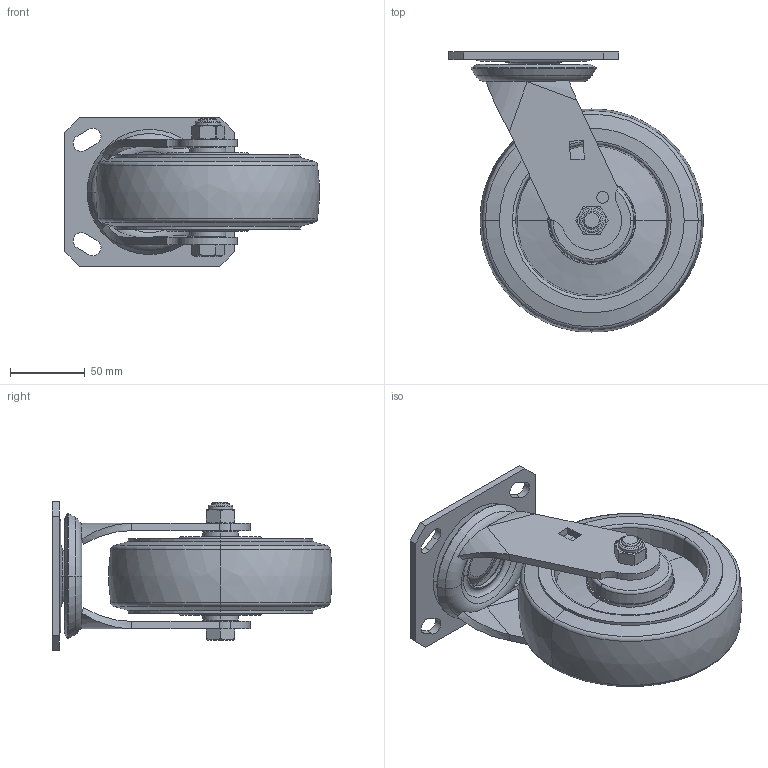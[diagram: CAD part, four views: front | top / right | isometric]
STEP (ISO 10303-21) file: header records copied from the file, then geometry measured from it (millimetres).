
FILE_DESCRIPTION((''),'2;1');
FILE_NAME('S7116_ASM','2021-10-19T',('lenovo'),(''),'PRO/ENGINEER BY PARAMETRIC TECHNOLOGY CORPORATION, 2010280','PRO/ENGINEER BY PARAMETRIC TECHNOLOGY CORPORATION, 2010280','');
FILE_SCHEMA(('CONFIG_CONTROL_DESIGN'));
Length unit declared in the file: millimetre
Products named in the file (8): S710-01; S710C03; S716C11; S716-11_ASM; S710-33; S710-34; 706-986; S7116_ASM
Assembly tree (7 placements, depth 3):
  S7116_ASM
    S710-01
    S716-11_ASM
      S710C03
      S716C11
    S710-33
    S710-34
    706-986
Bounding box: 170.82 x 187.82 x 100 mm (x, y, z)
Volume: 842208 mm3; surface area: 137179.6 mm2
Topology: 7 solids, 7 shells, 235 faces, 522 edges, 316 vertices
Faces by surface type: plane 69, cylinder 62, cone 60, torus 34, bspline 10
Entity records: 7170 total; most frequent: CARTESIAN_POINT 1650, DIRECTION 1216, ORIENTED_EDGE 1044, EDGE_CURVE 522, AXIS2_PLACEMENT_3D 498, VERTEX_POINT 316, EDGE_LOOP 276, CIRCLE 256
